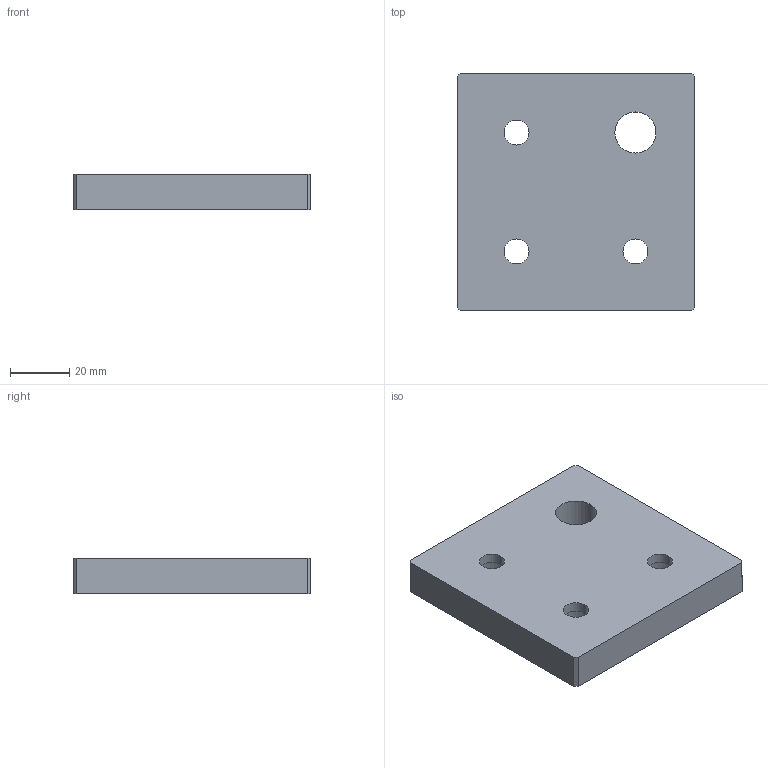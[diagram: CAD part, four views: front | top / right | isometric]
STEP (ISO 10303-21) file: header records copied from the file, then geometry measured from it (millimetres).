
FILE_DESCRIPTION (( 'STEP AP203' ), '1' );
FILE_NAME ('DFB8080CM16.STEP', '2018-11-27T07:20:51', ( '' ), ( '' ), 'SwSTEP 2.0', 'SolidWorks 2012', '' );
FILE_SCHEMA (( 'CONFIG_CONTROL_DESIGN' ));
Length unit declared in the file: millimetre
Products named in the file (1): DFB8080CM16
Bounding box: 80 x 80 x 12 mm (x, y, z)
Volume: 69847.5 mm3; surface area: 17981.2 mm2
Topology: 1 solids, 1 shells, 27 faces, 66 edges, 44 vertices
Faces by surface type: cylinder 14, plane 13
Entity records: 901 total; most frequent: DIRECTION 150, CARTESIAN_POINT 138, ORIENTED_EDGE 132, EDGE_CURVE 66, AXIS2_PLACEMENT_3D 56, VERTEX_POINT 44, LINE 38, VECTOR 38
